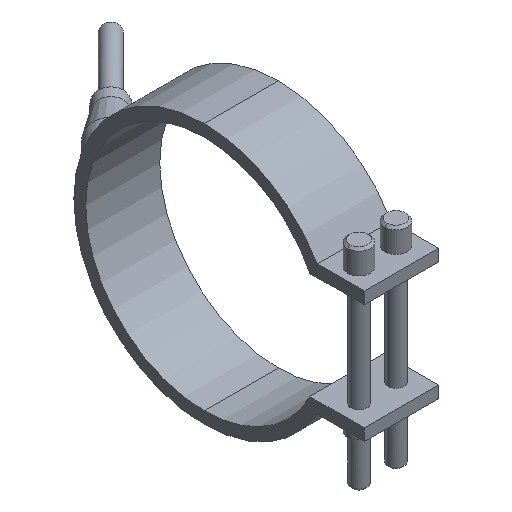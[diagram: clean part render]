
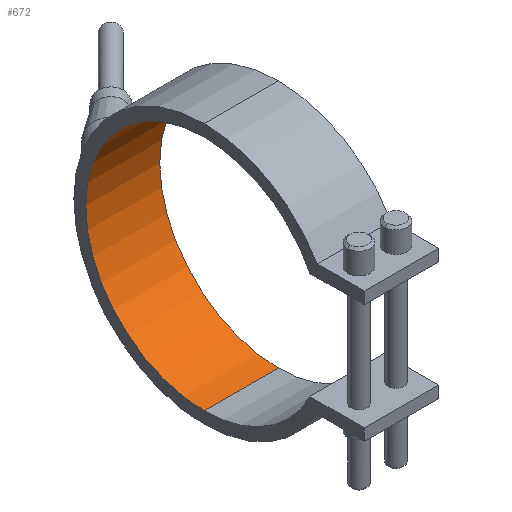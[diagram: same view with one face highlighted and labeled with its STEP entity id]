
A CAD part, isometric view. The second image highlights one B-rep face of the part: STEP entity #672.
In plain terms, the highlighted cylindrical face has radius 40 mm (diameter 80 mm), a partial arc.
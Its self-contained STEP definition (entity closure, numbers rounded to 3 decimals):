
#354=CARTESIAN_POINT('Vertex',(12.5,0.,40.)) ;
#359=CARTESIAN_POINT('Axis2P3D Location',(12.5,0.,0.)) ;
#363=CARTESIAN_POINT('Vertex',(12.5,0.,-40.)) ;
#470=CARTESIAN_POINT('Vertex',(-12.5,0.,-40.)) ;
#473=CARTESIAN_POINT('Axis2P3D Location',(-12.5,0.,0.)) ;
#477=CARTESIAN_POINT('Vertex',(-12.5,0.,40.)) ;
#644=CARTESIAN_POINT('Line Origine',(12.5,0.,40.)) ;
#656=CARTESIAN_POINT('Axis2P3D Location',(12.5,0.,0.)) ;
#661=CARTESIAN_POINT('Line Origine',(12.5,0.,-40.)) ;
#360=DIRECTION('Axis2P3D Direction',(1.,0.,0.)) ;
#474=DIRECTION('Axis2P3D Direction',(1.,0.,0.)) ;
#645=DIRECTION('Vector Direction',(1.,0.,0.)) ;
#657=DIRECTION('Axis2P3D Direction',(1.,0.,-0.)) ;
#658=DIRECTION('Axis2P3D XDirection',(0.,0.,-1.)) ;
#662=DIRECTION('Vector Direction',(1.,0.,0.)) ;
#361=AXIS2_PLACEMENT_3D('Circle Axis2P3D',#359,#360,$) ;
#475=AXIS2_PLACEMENT_3D('Circle Axis2P3D',#473,#474,$) ;
#659=AXIS2_PLACEMENT_3D('Cylinder Axis2P3D',#656,#657,#658) ;
#667=ORIENTED_EDGE('',*,*,#365,.T.) ;
#668=ORIENTED_EDGE('',*,*,#648,.T.) ;
#669=ORIENTED_EDGE('',*,*,#479,.F.) ;
#670=ORIENTED_EDGE('',*,*,#665,.T.) ;
#646=VECTOR('Line Direction',#645,1.) ;
#663=VECTOR('Line Direction',#662,1.) ;
#672=ADVANCED_FACE('29080025',(#671),#660,.F.) ;
#362=CIRCLE('generated circle',#361,40.) ;
#476=CIRCLE('generated circle',#475,40.) ;
#660=CYLINDRICAL_SURFACE('generated cylinder',#659,40.) ;
#365=EDGE_CURVE('',#364,#355,#362,.T.) ;
#479=EDGE_CURVE('',#471,#478,#476,.T.) ;
#648=EDGE_CURVE('',#355,#478,#647,.F.) ;
#665=EDGE_CURVE('',#471,#364,#664,.T.) ;
#666=EDGE_LOOP('',(#667,#668,#669,#670)) ;
#671=FACE_OUTER_BOUND('',#666,.T.) ;
#647=LINE('Line',#644,#646) ;
#664=LINE('Line',#661,#663) ;
#355=VERTEX_POINT('',#354) ;
#364=VERTEX_POINT('',#363) ;
#471=VERTEX_POINT('',#470) ;
#478=VERTEX_POINT('',#477) ;
